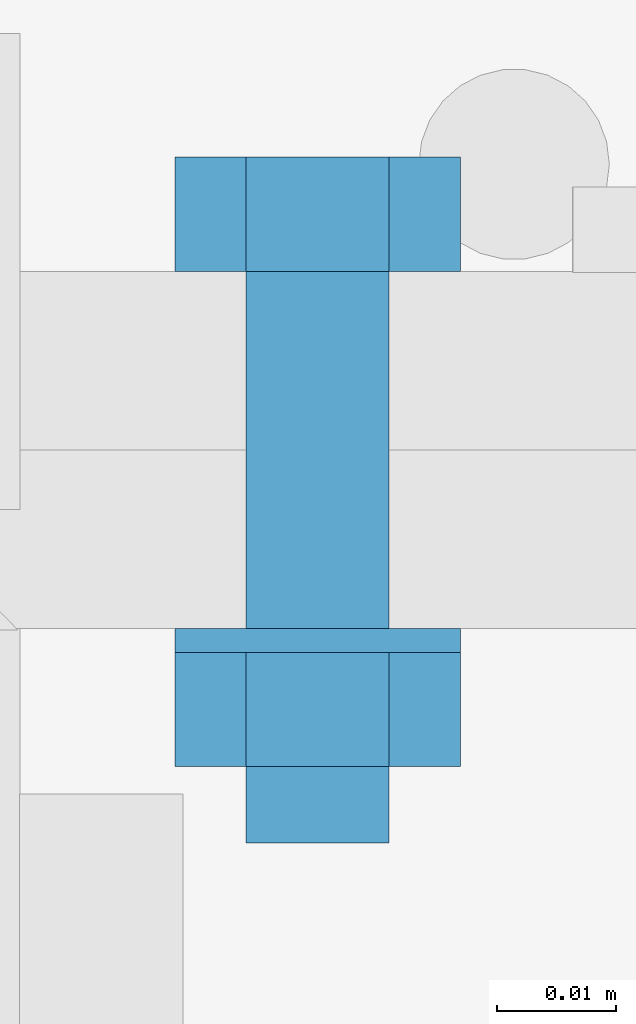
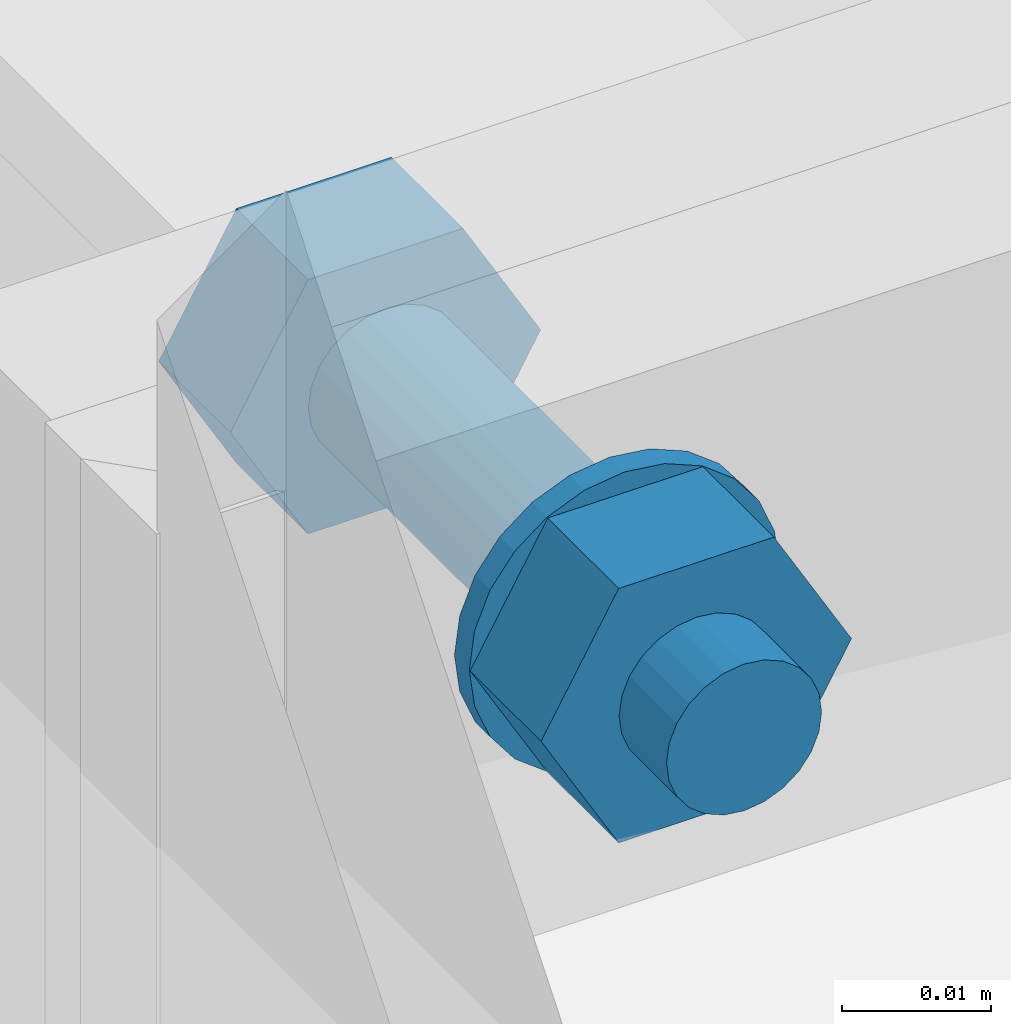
# One storey, part 166 of 251: 4 mechanical fasteners.
"""IFC4 building model written with IfcOpenShell, lengths in metres."""

from ifc_helpers import new_model, si_unit, frame, origin_with_axes, place, context, project, spatial, polyline, outline, extrude, type_object, element, save


model = new_model("IFC4")

# Units and contexts
model_context = context("Model", 3, precision=1e-05, world=origin_with_axes())
ifc_project = project(units=[si_unit("LENGTHUNIT", "METRE"), si_unit("AREAUNIT", "SQUARE_METRE"), si_unit("VOLUMEUNIT", "CUBIC_METRE"), si_unit("MASSUNIT", "GRAM", prefix="KILO"), si_unit("TIMEUNIT", "SECOND"), si_unit("PLANEANGLEUNIT", "RADIAN"), si_unit("SOLIDANGLEUNIT", "STERADIAN"), si_unit("THERMODYNAMICTEMPERATUREUNIT", "DEGREE_CELSIUS")], contexts=[model_context])

# Site, building, storey
placement_1 = place(None, origin_with_axes())
site = spatial("IfcSite", under=ifc_project, at=placement_1, Name="Italia", CompositionType="ELEMENT")
building = spatial("IfcBuilding", under=site, at=placement_1, Name="Deposito", CompositionType="ELEMENT")
storey = spatial("IfcBuildingStorey", under=building, at=placement_1, Name="Storey 0", CompositionType="ELEMENT", Elevation=0.0)

# Mechanical fasteners
mechanical_fastener_type_1 = type_object("IfcMechanicalFastenerType", Name="Collegamenti -064_-065 -065_-064 -065_-066 -066_-065 -066_-067 -067_-066 -067_-068 -068_-067", PredefinedType="BOLT")
placement_2 = place(placement_1, origin_with_axes())
mechanical_fastener_1_placement = place(placement_2, origin_with_axes())
element("IfcMechanicalFastener", 1, at=mechanical_fastener_1_placement, inside=storey, type_object=mechanical_fastener_type_1, Name="Collegamenti -064_-065 -065_-064 -065_-066 -066_-065 -066_-067 -067_-066 -067_-068 -068_-067", NominalDiameter=0.0119991, context=model_context, shape_type="SweptSolid", body=[
    extrude(outline(polyline([(0.0, 0.0), (-0.0119991, 0.0), (-0.0179996, 0.0103922), (-0.0119991, 0.0207849), (0.0, 0.0207849), (0.00600052, 0.0103922), (0.0, 0.0)])), frame((19.934, 10.13, 5.90461), z_axis=(0.0, 1.0, 0.0), x_axis=(-1.0, 0.0, 0.0)), (0.0, 0.0, 1.0), 0.00959969),
])
mechanical_fastener_type_2 = type_object("IfcMechanicalFastenerType", Name="Collegamenti -064_-065 -065_-064 -065_-066 -066_-065 -066_-067 -067_-066 -067_-068 -068_-067", PredefinedType="BOLT")
mechanical_fastener_2_placement = place(placement_2, origin_with_axes())
element("IfcMechanicalFastener", 2, at=mechanical_fastener_2_placement, inside=storey, type_object=mechanical_fastener_type_2, Name="Collegamenti -064_-065 -065_-064 -065_-066 -066_-065 -066_-067 -067_-066 -067_-068 -068_-067", NominalDiameter=0.012, context=model_context, shape_type="SweptSolid", body=[
    extrude(outline(polyline([(0.0, 0.0), (-0.000204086, -0.00155306), (-0.000804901, -0.00299978), (-0.00175858, -0.00424242), (-0.00300026, -0.00519609), (-0.00444794, -0.00579548), (-0.00600052, -0.00600004), (-0.0075531, -0.00579548), (-0.00900078, -0.00519609), (-0.0102425, -0.00424242), (-0.0111961, -0.00299978), (-0.011797, -0.00155306), (-0.012001, 0.0), (-0.011797, 0.00155306), (-0.0111961, 0.00299978), (-0.0102425, 0.00424242), (-0.00900078, 0.00519609), (-0.0075531, 0.00579548), (-0.00600052, 0.00600004), (-0.00444794, 0.00579548), (-0.00300026, 0.00519609), (-0.00175858, 0.00424242), (-0.000804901, 0.00299978), (-0.000204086, 0.00155306), (0.0, 0.0)])), frame((19.934, 10.082, 5.915), z_axis=(0.0, 1.0, 0.0), x_axis=(-1.0, 0.0, 0.0)), (0.0, 0.0, 1.0), 0.0480003),
])
mechanical_fastener_type_3 = type_object("IfcMechanicalFastenerType", Name="Collegamenti -064_-065 -065_-064 -065_-066 -066_-065 -066_-067 -067_-066 -067_-068 -068_-067", PredefinedType="BOLT")
mechanical_fastener_3_placement = place(placement_2, origin_with_axes())
element("IfcMechanicalFastener", 3, at=mechanical_fastener_3_placement, inside=storey, type_object=mechanical_fastener_type_3, Name="Collegamenti -064_-065 -065_-064 -065_-066 -066_-065 -066_-067 -067_-066 -067_-068 -068_-067", NominalDiameter=0.0119991, context=model_context, shape_type="SweptSolid", body=[
    extrude(outline(polyline([(0.0, 0.0), (-0.0119991, 0.0), (-0.0179996, 0.0103922), (-0.0119991, 0.0207849), (0.0, 0.0207849), (0.00600052, 0.0103922), (0.0, 0.0)])), frame((19.934, 10.0884, 5.90461), z_axis=(0.0, 1.0, 0.0), x_axis=(-1.0, 0.0, 0.0)), (0.0, 0.0, 1.0), 0.00959969),
])
mechanical_fastener_type_4 = type_object("IfcMechanicalFastenerType", Name="Collegamenti -064_-065 -065_-064 -065_-066 -066_-065 -066_-067 -067_-066 -067_-068 -068_-067", PredefinedType="BOLT")
mechanical_fastener_4_placement = place(placement_2, origin_with_axes())
element("IfcMechanicalFastener", 4, at=mechanical_fastener_4_placement, inside=storey, type_object=mechanical_fastener_type_4, Name="Collegamenti -064_-065 -065_-064 -065_-066 -066_-065 -066_-067 -067_-066 -067_-068 -068_-067", NominalDiameter=0.024, context=model_context, shape_type="SweptSolid", body=[
    extrude(outline(polyline([(0.0, 0.0), (-0.000408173, -0.00310564), (-0.00160599, -0.00600004), (-0.00351334, -0.00848532), (-0.00599861, -0.0103922), (-0.00889397, -0.011591), (-0.0119991, -0.0120001), (-0.0151043, -0.011591), (-0.0179996, -0.0103922), (-0.0204849, -0.00848532), (-0.0223923, -0.00600004), (-0.0235901, -0.00310564), (-0.0239983, 0.0), (-0.0235901, 0.00310564), (-0.0223923, 0.00600004), (-0.0204849, 0.00848532), (-0.0179996, 0.0103922), (-0.0151043, 0.011591), (-0.0119991, 0.0120001), (-0.00889397, 0.011591), (-0.00599861, 0.0103922), (-0.00351334, 0.00848532), (-0.00160599, 0.00600004), (-0.000408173, 0.00310564), (0.0, 0.0)])), frame((19.928, 10.098, 5.915), z_axis=(0.0, 1.0, 0.0), x_axis=(-1.0, 0.0, 0.0)), (0.0, 0.0, 1.0), 0.00200081),
])

save(model, "model.ifc")
